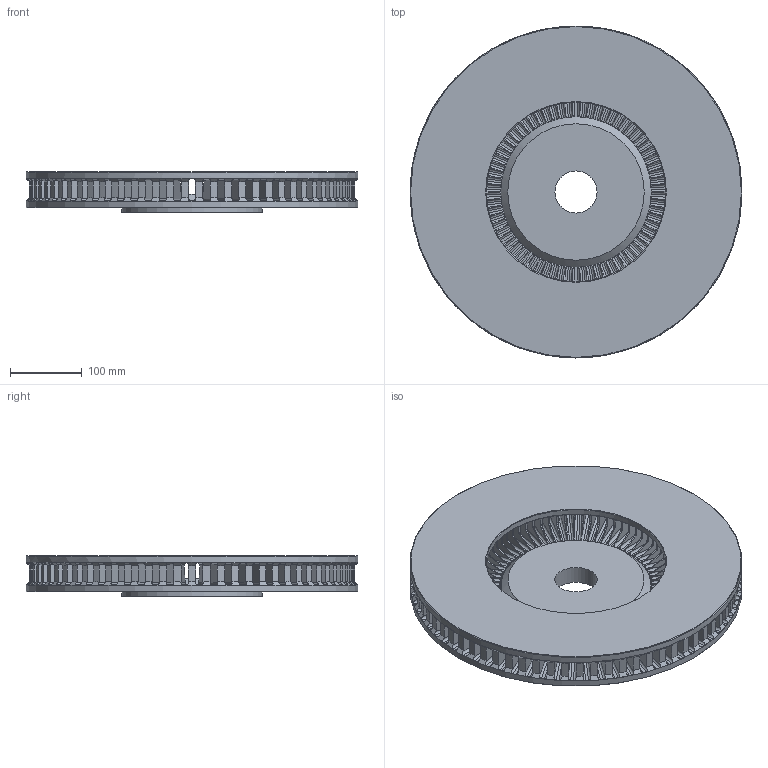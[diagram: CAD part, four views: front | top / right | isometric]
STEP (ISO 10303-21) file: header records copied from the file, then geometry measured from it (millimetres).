
FILE_DESCRIPTION (( 'STEP AP214' ), '1' );
FILE_NAME ('2-4-18.STEP', '2017-09-12T21:26:06', ( '' ), ( '' ), 'SwSTEP 2.0', 'SolidWorks 2017', '' );
FILE_SCHEMA (( 'AUTOMOTIVE_DESIGN' ));
Length unit declared in the file: inch
Products named in the file (1): 2-4-18
Bounding box: 463.55 x 463.55 x 57.15 mm (x, y, z)
Volume: 4639636.5 mm3; surface area: 965204.2 mm2
Topology: 1 solids, 1 shells, 1136 faces, 3742 edges, 2470 vertices
Faces by surface type: plane 564, cylinder 425, cone 77, torus 70
Full cylindrical faces by diameter (mm): 58.928 x1, 196.85 x1, 250.825 x1, 463.55 x2
Entity records: 51728 total; most frequent: CARTESIAN_POINT 22305, ORIENTED_EDGE 7448, DIRECTION 4682, EDGE_CURVE 3724, VERTEX_POINT 2464, B_SPLINE_CURVE_WITH_KNOTS 1820, AXIS2_PLACEMENT_3D 1781, EDGE_LOOP 1152
